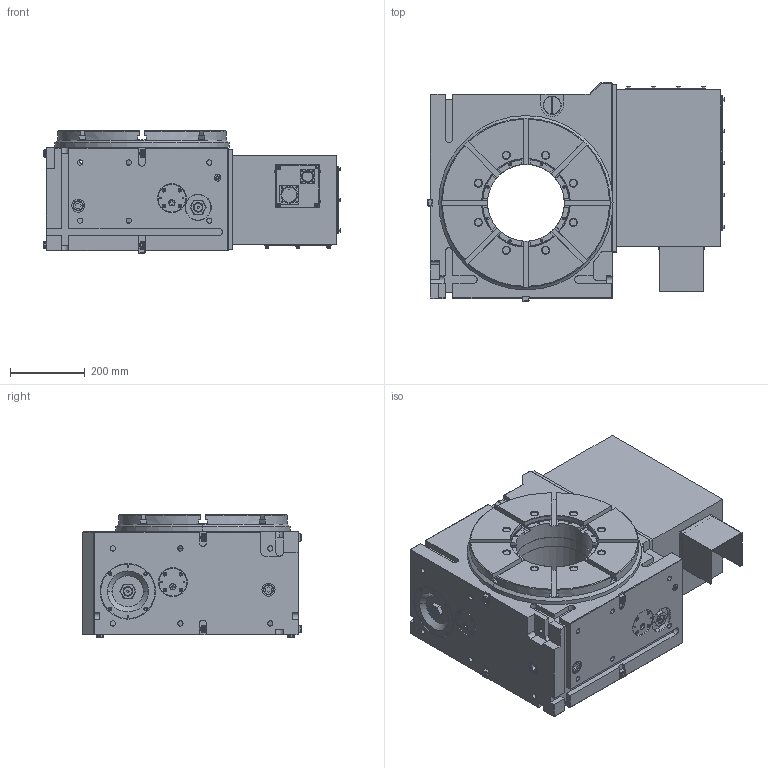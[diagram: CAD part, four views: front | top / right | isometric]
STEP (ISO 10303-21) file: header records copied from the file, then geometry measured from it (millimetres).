
FILE_DESCRIPTION (( 'STEP AP203' ), '1' );
FILE_NAME ('15161548-MDX453R.STEP', '2020-11-25T22:50:48', ( '' ), ( '' ), 'SwSTEP 2.0', 'SolidWorks 2019', '' );
FILE_SCHEMA (( 'CONFIG_CONTROL_DESIGN' ));
Length unit declared in the file: millimetre
Products named in the file (1): 15161548-MDX453R
Bounding box: 791.3 x 582 x 327 mm (x, y, z)
Surface area: 2218164.3 mm2 (no closed solid volume)
Topology: 0 solids, 180 shells, 1638 faces, 5216 edges, 3713 vertices
Faces by surface type: plane 845, cylinder 533, cone 228, torus 32
Entity records: 58334 total; most frequent: CARTESIAN_POINT 11015, DIRECTION 10429, ORIENTED_EDGE 8242, EDGE_CURVE 5212, VERTEX_POINT 3713, AXIS2_PLACEMENT_3D 3680, LINE 3069, VECTOR 3069
